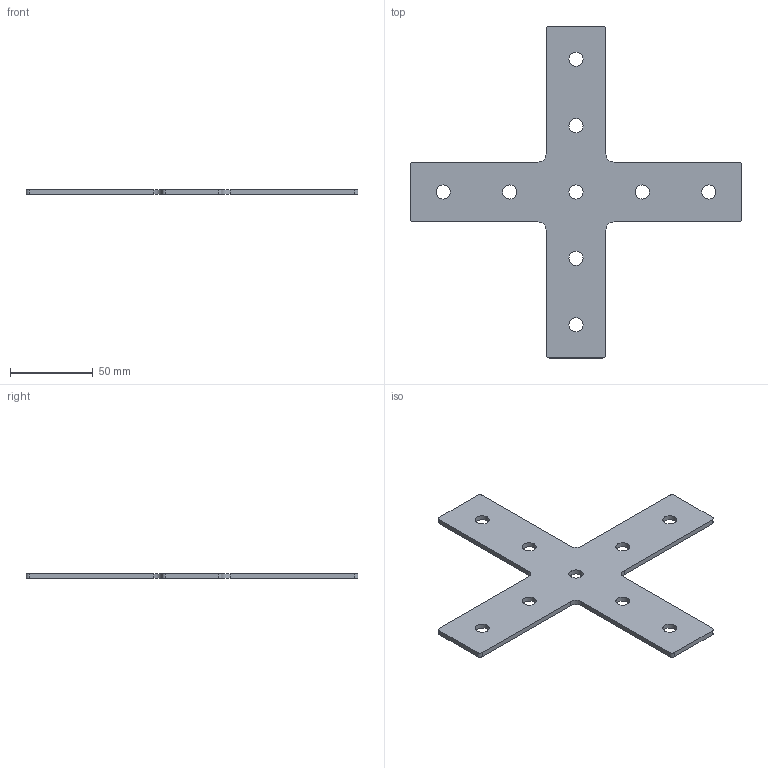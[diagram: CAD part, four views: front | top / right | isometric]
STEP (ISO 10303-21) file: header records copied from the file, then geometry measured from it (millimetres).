
FILE_DESCRIPTION(/* description */ ('Piastra di giunzione a X'),/* implementation_level */ '2;1');
FILE_NAME(/* name */ 'C:\omnitec\Desktop\Connessone PCB\JPX40.stp',/* time_stamp */ '2021-02-19T10:04:13+01:00',/* author */ ('omnitec'),/* organization */ ('Microsoft'),/* preprocessor_version */ 'ST-DEVELOPER v18.1',/* originating_system */ 'Autodesk Inventor 2021',/* authorisation */ '');
FILE_SCHEMA (('AUTOMOTIVE_DESIGN { 1 0 10303 214 3 1 1 }'));
Length unit declared in the file: millimetre
Products named in the file (1): JPX40
Bounding box: 200 x 200 x 3 mm (x, y, z)
Volume: 37823.7 mm3; surface area: 28290.4 mm2
Topology: 1 solids, 1 shells, 35 faces, 99 edges, 66 vertices
Faces by surface type: cylinder 21, plane 14
Full cylindrical faces by diameter (mm): 8.5 x9
Entity records: 1232 total; most frequent: DIRECTION 213, CARTESIAN_POINT 201, ORIENTED_EDGE 198, EDGE_CURVE 99, AXIS2_PLACEMENT_3D 78, VERTEX_POINT 66, LINE 57, VECTOR 57
